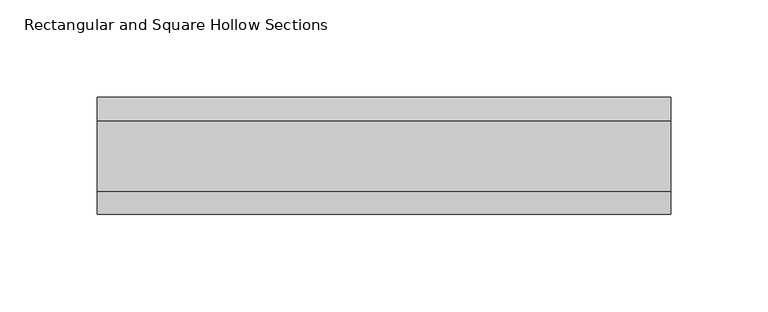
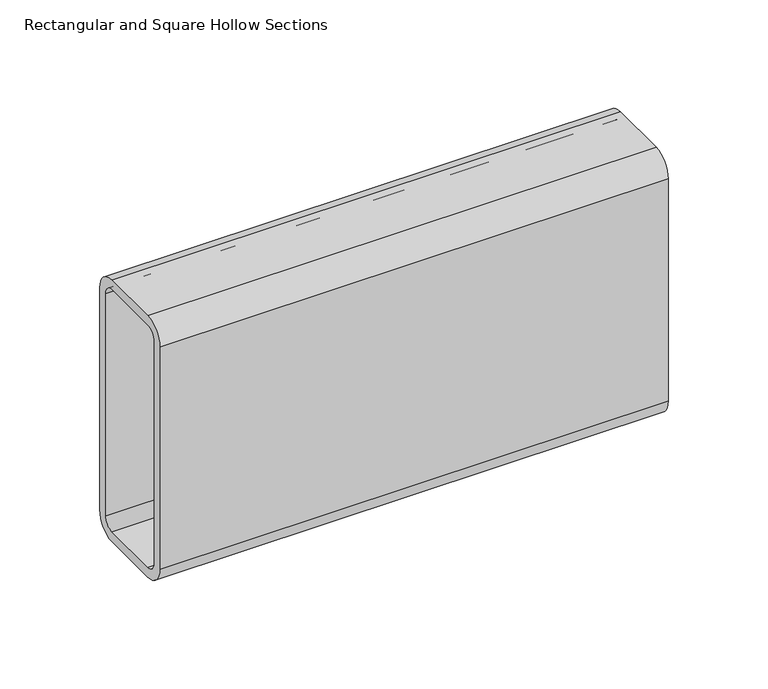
"""IFC4 building model written with IfcOpenShell, lengths in millimetres: beam geometry, Rectangular and Square Hollow Sections : TREC160x60x6."""

from ifc_helpers import new_model, si_unit, point, frame, frame_2d, origin, place, context, project, spatial, polyline, circle_curve, trimmed, segment, composite_curve, outline, extrude, source, transform, mapped, element, save


def rectangular_and_square_hollow_sections_3be7d37e(model_context):
    return source(origin(), model_context, "Body", "SweptSolid", [
        extrude(outline(composite_curve([segment(polyline([(30.0, 68.0), (30.0, -68.0)]), True, "CONTINUOUS"), segment(trimmed(circle_curve(frame_2d((18.0, -68.0)), 12.0), [point((30.0, -68.0))], [point((18.0, -80.0))], False, "CARTESIAN"), True, "CONTINUOUS"), segment(polyline([(18.0, -80.0), (-18.0, -80.0)]), True, "CONTINUOUS"), segment(trimmed(circle_curve(frame_2d((-18.0, -68.0)), 12.0), [point((-18.0, -80.0))], [point((-30.0, -68.0))], False, "CARTESIAN"), True, "CONTINUOUS"), segment(polyline([(-30.0, -68.0), (-30.0, 68.0)]), True, "CONTINUOUS"), segment(trimmed(circle_curve(frame_2d((-18.0, 68.0)), 12.0), [point((-30.0, 68.0))], [point((-18.0, 80.0))], False, "CARTESIAN"), True, "CONTINUOUS"), segment(polyline([(-18.0, 80.0), (18.0, 80.0)]), True, "CONTINUOUS"), segment(trimmed(circle_curve(frame_2d((18.0, 68.0)), 12.0), [point((18.0, 80.0))], [point((30.0, 68.0))], False, "CARTESIAN"), True, "CONTINUOUS")], self_intersect=False), holes=[composite_curve([segment(trimmed(circle_curve(frame_2d((-18.0, 68.0)), 6.0), [point((-18.0, 74.0))], [point((-24.0, 68.0))], True, "CARTESIAN"), True, "CONTINUOUS"), segment(polyline([(-24.0, 68.0), (-24.0, -68.0)]), True, "CONTINUOUS"), segment(trimmed(circle_curve(frame_2d((-18.0, -68.0)), 6.0), [point((-24.0, -68.0))], [point((-18.0, -74.0))], True, "CARTESIAN"), True, "CONTINUOUS"), segment(polyline([(-18.0, -74.0), (18.0, -74.0)]), True, "CONTINUOUS"), segment(trimmed(circle_curve(frame_2d((18.0, -68.0)), 6.0), [point((18.0, -74.0))], [point((24.0, -68.0))], True, "CARTESIAN"), True, "CONTINUOUS"), segment(polyline([(24.0, -68.0), (24.0, 68.0)]), True, "CONTINUOUS"), segment(trimmed(circle_curve(frame_2d((18.0, 68.0)), 6.0), [point((24.0, 68.0))], [point((18.0, 74.0))], True, "CARTESIAN"), True, "CONTINUOUS"), segment(polyline([(18.0, 74.0), (-18.0, 74.0)]), True, "CONTINUOUS")], self_intersect=False)]), frame((-140.5, 0.0, 0.0), z_axis=(1.0, 0.0, 0.0), x_axis=(0.0, 1.0, 0.0)), (0.0, 0.0, 1.0), 294.0),
    ])


if __name__ == "__main__":
    model = new_model("IFC4")
    model_context = context("Model", 3, world=origin())
    ifc_project = project(units=[si_unit("LENGTHUNIT", "METRE", prefix="MILLI")], contexts=[model_context])
    site = spatial("IfcSite", under=ifc_project)
    building = spatial("IfcBuilding", under=site)
    placement = place(None, origin())
    rectangular_and_square_hollow_sections_shape = rectangular_and_square_hollow_sections_3be7d37e(model_context)
    element("IfcBeam", 1, ObjectType="Rectangular and Square Hollow Sections : TREC160x60x6", at=placement, inside=building, context=model_context, shape_type="MappedRepresentation", body=[
        mapped(rectangular_and_square_hollow_sections_shape, transform((0.0, 0.0, 0.0), x_axis=(1.0, 0.0, 0.0), y_axis=(0.0, 1.0, 0.0), z_axis=(0.0, 0.0, 1.0))),
    ])
    save(model, "model.ifc")
